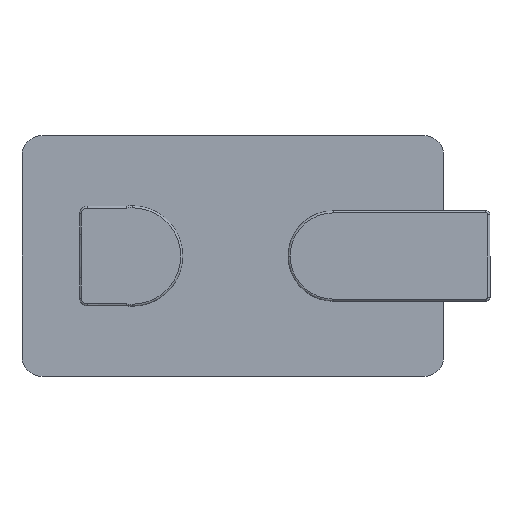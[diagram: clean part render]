
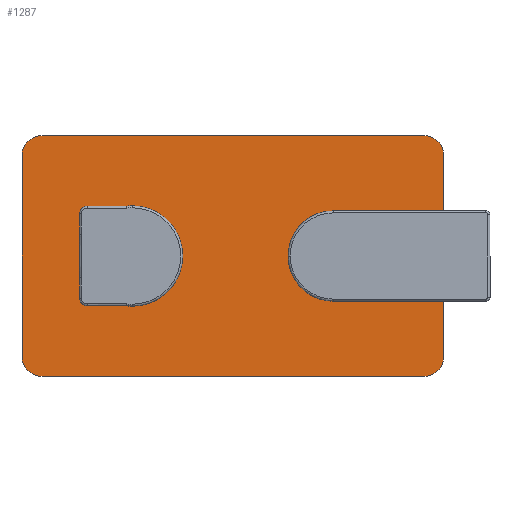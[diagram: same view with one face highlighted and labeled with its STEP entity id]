
A CAD part, front view. The second image highlights one B-rep face of the part: STEP entity #1287.
In plain terms, the highlighted planar face has unit normal (0, -1, 0).
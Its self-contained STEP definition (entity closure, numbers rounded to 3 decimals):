
#7 = CARTESIAN_POINT ( 'NONE',  ( -23.514, 38.35, -33. ) ) ;
#17 = CARTESIAN_POINT ( 'NONE',  ( -126.014, 38.35, 0. ) ) ;
#72 = CARTESIAN_POINT ( 'NONE',  ( -23.514, 38.35, -33. ) ) ;
#85 = CIRCLE ( 'NONE', #509, 21.629 ) ;
#98 = EDGE_CURVE ( 'NONE', #693, #295, #2743, .T. ) ;
#103 = DIRECTION ( 'NONE',  ( 0., 1., 0. ) ) ;
#138 = DIRECTION ( 'NONE',  ( 0., -1., 0. ) ) ;
#147 = EDGE_CURVE ( 'NONE', #3667, #2137, #1317, .T. ) ;
#160 = AXIS2_PLACEMENT_3D ( 'NONE', #3641, #1937, #2329 ) ;
#235 = ORIENTED_EDGE ( 'NONE', *, *, #3739, .T. ) ;
#287 = DIRECTION ( 'NONE',  ( 0., 0., 1. ) ) ;
#290 = EDGE_CURVE ( 'NONE', #697, #2119, #1882, .T. ) ;
#295 = VERTEX_POINT ( 'NONE', #937 ) ;
#320 = ORIENTED_EDGE ( 'NONE', *, *, #147, .F. ) ;
#337 = DIRECTION ( 'NONE',  ( 1., 0., 0. ) ) ;
#358 = AXIS2_PLACEMENT_3D ( 'NONE', #2867, #3755, #287 ) ;
#391 = EDGE_CURVE ( 'NONE', #295, #3667, #1190, .T. ) ;
#396 = CIRCLE ( 'NONE', #2220, 22.5 ) ;
#402 = AXIS2_PLACEMENT_3D ( 'NONE', #2453, #103, #3622 ) ;
#416 = CARTESIAN_POINT ( 'NONE',  ( -176.014, 38.35, -60. ) ) ;
#442 = ORIENTED_EDGE ( 'NONE', *, *, #3712, .F. ) ;
#446 = DIRECTION ( 'NONE',  ( 0., 1., 0. ) ) ;
#451 = FACE_BOUND ( 'NONE', #3133, .T. ) ;
#507 = CARTESIAN_POINT ( 'NONE',  ( -23.514, 38.35, -22.361 ) ) ;
#509 = AXIS2_PLACEMENT_3D ( 'NONE', #3055, #1741, #1447 ) ;
#537 = EDGE_CURVE ( 'NONE', #3624, #2836, #85, .T. ) ;
#693 = VERTEX_POINT ( 'NONE', #2877 ) ;
#696 = ORIENTED_EDGE ( 'NONE', *, *, #3341, .T. ) ;
#697 = VERTEX_POINT ( 'NONE', #1463 ) ;
#703 = DIRECTION ( 'NONE',  ( 0., 0., -1. ) ) ;
#711 = EDGE_CURVE ( 'NONE', #3624, #2474, #2581, .T. ) ;
#715 = ORIENTED_EDGE ( 'NONE', *, *, #2240, .F. ) ;
#719 = CARTESIAN_POINT ( 'NONE',  ( -126.014, 38.35, -25. ) ) ;
#731 = VECTOR ( 'NONE', #2969, 1000. ) ;
#741 = FACE_BOUND ( 'NONE', #2367, .T. ) ;
#803 = DIRECTION ( 'NONE',  ( 0., 0., -1. ) ) ;
#881 = EDGE_CURVE ( 'NONE', #2407, #693, #2564, .T. ) ;
#937 = CARTESIAN_POINT ( 'NONE',  ( -171.014, 38.35, 60. ) ) ;
#1004 = CARTESIAN_POINT ( 'NONE',  ( -181.014, 38.35, -50. ) ) ;
#1064 = CARTESIAN_POINT ( 'NONE',  ( -126.014, 38.35, 0. ) ) ;
#1066 = CIRCLE ( 'NONE', #1842, 25. ) ;
#1074 = ORIENTED_EDGE ( 'NONE', *, *, #98, .F. ) ;
#1104 = VECTOR ( 'NONE', #2059, 1000. ) ;
#1147 = DIRECTION ( 'NONE',  ( 0., 1., 0. ) ) ;
#1156 = DIRECTION ( 'NONE',  ( 0., 0., -1. ) ) ;
#1165 = DIRECTION ( 'NONE',  ( 0., 0., 1. ) ) ;
#1172 = ORIENTED_EDGE ( 'NONE', *, *, #711, .F. ) ;
#1190 = LINE ( 'NONE', #1811, #2733 ) ;
#1212 = LINE ( 'NONE', #2907, #731 ) ;
#1287 = ADVANCED_FACE ( 'NONE', ( #3261, #741, #451 ), #1583, .T. ) ;
#1314 = VECTOR ( 'NONE', #2673, 1000. ) ;
#1317 = CIRCLE ( 'NONE', #160, 10. ) ;
#1330 = ORIENTED_EDGE ( 'NONE', *, *, #2866, .F. ) ;
#1372 = CARTESIAN_POINT ( 'NONE',  ( 28.986, 38.35, -50. ) ) ;
#1430 = EDGE_CURVE ( 'NONE', #2137, #3342, #1212, .T. ) ;
#1447 = DIRECTION ( 'NONE',  ( 0., 0., 1. ) ) ;
#1463 = CARTESIAN_POINT ( 'NONE',  ( 18.986, 38.35, -60. ) ) ;
#1481 = EDGE_CURVE ( 'NONE', #2643, #2836, #2653, .T. ) ;
#1493 = VECTOR ( 'NONE', #2890, 1000. ) ;
#1524 = CIRCLE ( 'NONE', #1888, 25. ) ;
#1534 = AXIS2_PLACEMENT_3D ( 'NONE', #2696, #138, #803 ) ;
#1549 = DIRECTION ( 'NONE',  ( 0., -1., 0. ) ) ;
#1565 = VECTOR ( 'NONE', #1156, 1000. ) ;
#1583 = PLANE ( 'NONE',  #1534 ) ;
#1606 = ORIENTED_EDGE ( 'NONE', *, *, #290, .F. ) ;
#1644 = CARTESIAN_POINT ( 'NONE',  ( -23.514, 38.35, -21.484 ) ) ;
#1741 = DIRECTION ( 'NONE',  ( 0., -1., 0. ) ) ;
#1811 = CARTESIAN_POINT ( 'NONE',  ( 23.986, 38.35, 60. ) ) ;
#1842 = AXIS2_PLACEMENT_3D ( 'NONE', #17, #1147, #3451 ) ;
#1854 = ORIENTED_EDGE ( 'NONE', *, *, #391, .F. ) ;
#1882 = LINE ( 'NONE', #416, #1314 ) ;
#1888 = AXIS2_PLACEMENT_3D ( 'NONE', #1064, #446, #703 ) ;
#1937 = DIRECTION ( 'NONE',  ( 0., 1., 0. ) ) ;
#2059 = DIRECTION ( 'NONE',  ( 0., 0., 1. ) ) ;
#2119 = VERTEX_POINT ( 'NONE', #3424 ) ;
#2128 = CARTESIAN_POINT ( 'NONE',  ( -23.514, 38.35, 22.361 ) ) ;
#2137 = VERTEX_POINT ( 'NONE', #3045 ) ;
#2220 = AXIS2_PLACEMENT_3D ( 'NONE', #2965, #1549, #1165 ) ;
#2240 = EDGE_CURVE ( 'NONE', #3342, #697, #3603, .T. ) ;
#2295 = DIRECTION ( 'NONE',  ( 0., 0., -1. ) ) ;
#2306 = ORIENTED_EDGE ( 'NONE', *, *, #537, .T. ) ;
#2329 = DIRECTION ( 'NONE',  ( 0., 0., 1. ) ) ;
#2350 = CIRCLE ( 'NONE', #358, 10. ) ;
#2367 = EDGE_LOOP ( 'NONE', ( #1172, #2306, #2582, #1330 ) ) ;
#2395 = CARTESIAN_POINT ( 'NONE',  ( -23.514, 38.35, 21.484 ) ) ;
#2407 = VERTEX_POINT ( 'NONE', #1004 ) ;
#2421 = VERTEX_POINT ( 'NONE', #3654 ) ;
#2453 = CARTESIAN_POINT ( 'NONE',  ( -171.014, 38.35, 50. ) ) ;
#2457 = EDGE_LOOP ( 'NONE', ( #715, #2647, #320, #1854, #1074, #2853, #442, #1606 ) ) ;
#2466 = CARTESIAN_POINT ( 'NONE',  ( 18.986, 38.35, 60. ) ) ;
#2474 = VERTEX_POINT ( 'NONE', #507 ) ;
#2520 = DIRECTION ( 'NONE',  ( 0., 1., 0. ) ) ;
#2564 = LINE ( 'NONE', #3747, #1104 ) ;
#2581 = LINE ( 'NONE', #7, #1565 ) ;
#2582 = ORIENTED_EDGE ( 'NONE', *, *, #1481, .F. ) ;
#2643 = VERTEX_POINT ( 'NONE', #2128 ) ;
#2647 = ORIENTED_EDGE ( 'NONE', *, *, #1430, .F. ) ;
#2653 = LINE ( 'NONE', #72, #1493 ) ;
#2673 = DIRECTION ( 'NONE',  ( -1., 0., 0. ) ) ;
#2696 = CARTESIAN_POINT ( 'NONE',  ( -26.014, 38.35, 0. ) ) ;
#2733 = VECTOR ( 'NONE', #337, 1000. ) ;
#2743 = CIRCLE ( 'NONE', #402, 10. ) ;
#2761 = VERTEX_POINT ( 'NONE', #719 ) ;
#2836 = VERTEX_POINT ( 'NONE', #2395 ) ;
#2853 = ORIENTED_EDGE ( 'NONE', *, *, #881, .F. ) ;
#2866 = EDGE_CURVE ( 'NONE', #2474, #2643, #396, .T. ) ;
#2867 = CARTESIAN_POINT ( 'NONE',  ( -171.014, 38.35, -50. ) ) ;
#2874 = AXIS2_PLACEMENT_3D ( 'NONE', #3455, #2520, #2295 ) ;
#2877 = CARTESIAN_POINT ( 'NONE',  ( -181.014, 38.35, 50. ) ) ;
#2890 = DIRECTION ( 'NONE',  ( 0., 0., -1. ) ) ;
#2907 = CARTESIAN_POINT ( 'NONE',  ( 28.986, 38.35, -60. ) ) ;
#2965 = CARTESIAN_POINT ( 'NONE',  ( -26.014, 38.35, 0. ) ) ;
#2969 = DIRECTION ( 'NONE',  ( 0., 0., -1. ) ) ;
#3045 = CARTESIAN_POINT ( 'NONE',  ( 28.986, 38.35, 50. ) ) ;
#3055 = CARTESIAN_POINT ( 'NONE',  ( -26.014, 38.35, 0. ) ) ;
#3133 = EDGE_LOOP ( 'NONE', ( #235, #696 ) ) ;
#3261 = FACE_OUTER_BOUND ( 'NONE', #2457, .T. ) ;
#3341 = EDGE_CURVE ( 'NONE', #2761, #2421, #1524, .T. ) ;
#3342 = VERTEX_POINT ( 'NONE', #1372 ) ;
#3424 = CARTESIAN_POINT ( 'NONE',  ( -171.014, 38.35, -60. ) ) ;
#3451 = DIRECTION ( 'NONE',  ( 0., 0., -1. ) ) ;
#3455 = CARTESIAN_POINT ( 'NONE',  ( 18.986, 38.35, -50. ) ) ;
#3603 = CIRCLE ( 'NONE', #2874, 10. ) ;
#3622 = DIRECTION ( 'NONE',  ( 0., 0., -1. ) ) ;
#3624 = VERTEX_POINT ( 'NONE', #1644 ) ;
#3641 = CARTESIAN_POINT ( 'NONE',  ( 18.986, 38.35, 50. ) ) ;
#3654 = CARTESIAN_POINT ( 'NONE',  ( -126.014, 38.35, 25. ) ) ;
#3667 = VERTEX_POINT ( 'NONE', #2466 ) ;
#3712 = EDGE_CURVE ( 'NONE', #2119, #2407, #2350, .T. ) ;
#3739 = EDGE_CURVE ( 'NONE', #2421, #2761, #1066, .T. ) ;
#3747 = CARTESIAN_POINT ( 'NONE',  ( -181.014, 38.35, 60. ) ) ;
#3755 = DIRECTION ( 'NONE',  ( 0., 1., 0. ) ) ;
